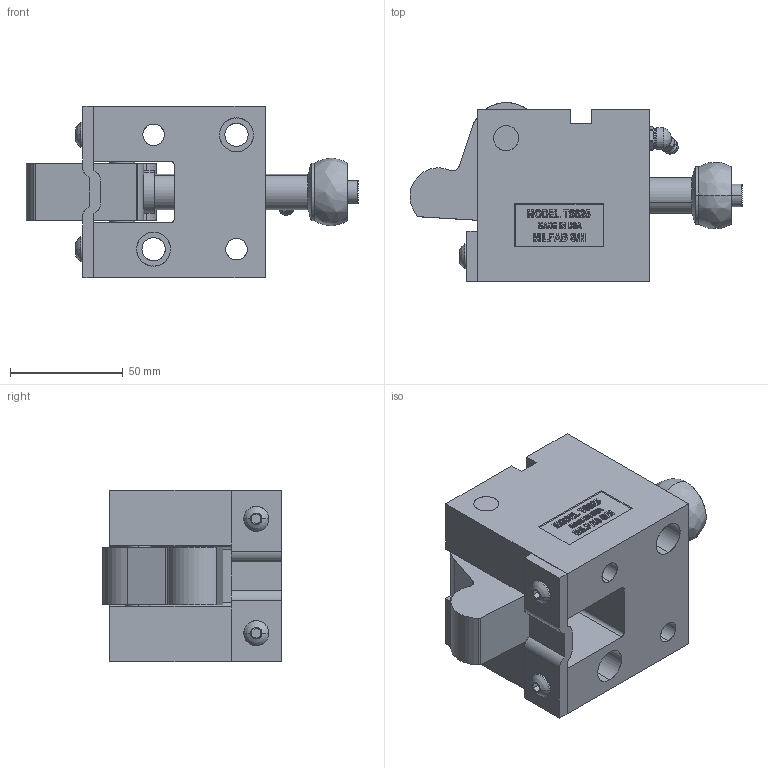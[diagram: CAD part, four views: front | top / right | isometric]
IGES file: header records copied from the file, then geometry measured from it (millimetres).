
Start section: SolidWorks IGES file using analytic representation for surfaces
Global section: file name: Y:\JIM'S INCH CAM UNITS\TS62545\CLOSED\TS62545-C.IGS; native system: SolidWorks 2006 by SolidWorks Corporation; preprocessor: SolidWorks 2006 by SolidWorks Corporation; author: Jim; date: 090210.114928; units: inch
Bounding box: 147.5 x 79.37 x 76.2 mm (x, y, z)
Surface area: 79349.3 mm2 (no closed solid volume)
Topology: 0 solids, 0 shells, 582 faces, 6865 edges, 6861 vertices
Faces by surface type: bspline 460, revolution 122
